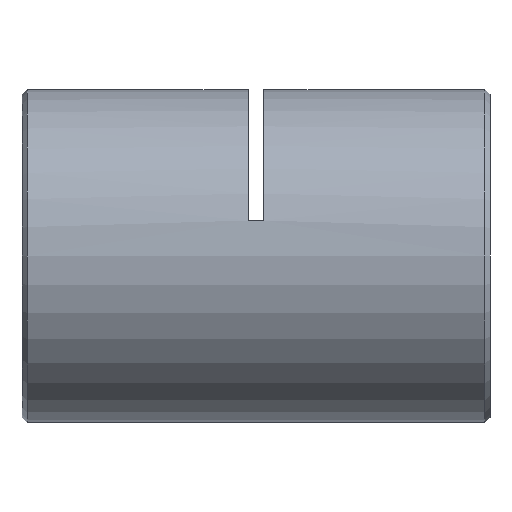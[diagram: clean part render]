
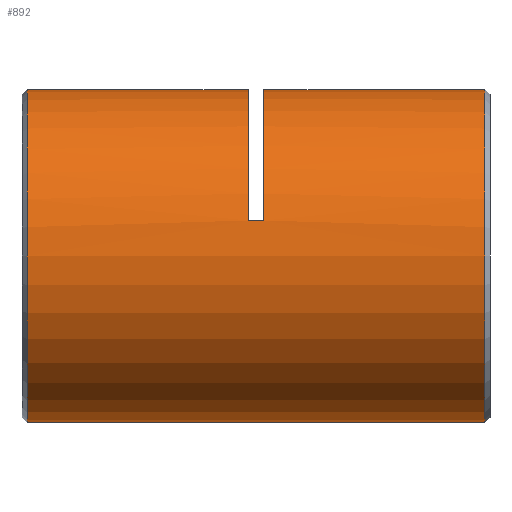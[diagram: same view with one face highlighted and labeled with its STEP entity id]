
A CAD part, left-side view. The second image highlights one B-rep face of the part: STEP entity #892.
In plain terms, the highlighted cylindrical face has radius 16 mm (diameter 32 mm), a partial arc.
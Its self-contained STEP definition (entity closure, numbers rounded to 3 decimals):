
#160 = CARTESIAN_POINT ( 'NONE',  ( 0., 22., 16. ) ) ;
#348 = VECTOR ( 'NONE', #2920, 1000. ) ;
#354 = DIRECTION ( 'NONE',  ( 0., -1., 0. ) ) ;
#525 = EDGE_LOOP ( 'NONE', ( #5694, #2028, #5382, #2296, #5724, #5818, #6005, #725 ) ) ;
#701 = VERTEX_POINT ( 'NONE', #4126 ) ;
#725 = ORIENTED_EDGE ( 'NONE', *, *, #1716, .T. ) ;
#745 = VERTEX_POINT ( 'NONE', #2873 ) ;
#892 = ADVANCED_FACE ( 'NONE', ( #3310 ), #2402, .T. ) ;
#942 = EDGE_CURVE ( 'NONE', #4550, #701, #1273, .T. ) ;
#981 = DIRECTION ( 'NONE',  ( 0., 1., 0. ) ) ;
#996 = DIRECTION ( 'NONE',  ( 0., 1., 0. ) ) ;
#1104 = EDGE_CURVE ( 'NONE', #4978, #4550, #5760, .T. ) ;
#1134 = LINE ( 'NONE', #4989, #2525 ) ;
#1273 = CIRCLE ( 'NONE', #2792, 16. ) ;
#1403 = DIRECTION ( 'NONE',  ( 0., 0., -1. ) ) ;
#1416 = DIRECTION ( 'NONE',  ( 0., 1., 0. ) ) ;
#1464 = CARTESIAN_POINT ( 'NONE',  ( -15.632, 22.75, 3.413 ) ) ;
#1620 = DIRECTION ( 'NONE',  ( 0., 1., 0. ) ) ;
#1672 = EDGE_CURVE ( 'NONE', #4978, #3221, #3805, .T. ) ;
#1716 = EDGE_CURVE ( 'NONE', #5119, #5505, #3419, .T. ) ;
#1922 = CARTESIAN_POINT ( 'NONE',  ( 0., 0., -16. ) ) ;
#1952 = LINE ( 'NONE', #1922, #2494 ) ;
#2028 = ORIENTED_EDGE ( 'NONE', *, *, #5304, .T. ) ;
#2065 = CARTESIAN_POINT ( 'NONE',  ( 0., 0., 16. ) ) ;
#2122 = CARTESIAN_POINT ( 'NONE',  ( 0., 0.75, 0. ) ) ;
#2137 = CARTESIAN_POINT ( 'NONE',  ( 0., 23.5, 0. ) ) ;
#2155 = DIRECTION ( 'NONE',  ( 0., 1., 0. ) ) ;
#2296 = ORIENTED_EDGE ( 'NONE', *, *, #1672, .F. ) ;
#2326 = DIRECTION ( 'NONE',  ( 0., 0., 1. ) ) ;
#2402 = CYLINDRICAL_SURFACE ( 'NONE', #5301, 16. ) ;
#2446 = CARTESIAN_POINT ( 'NONE',  ( -15.632, 22., 3.413 ) ) ;
#2494 = VECTOR ( 'NONE', #996, 1000. ) ;
#2519 = LINE ( 'NONE', #2065, #348 ) ;
#2525 = VECTOR ( 'NONE', #2155, 1000. ) ;
#2623 = EDGE_CURVE ( 'NONE', #3049, #3221, #1134, .T. ) ;
#2702 = AXIS2_PLACEMENT_3D ( 'NONE', #4740, #354, #1403 ) ;
#2792 = AXIS2_PLACEMENT_3D ( 'NONE', #2137, #4054, #5954 ) ;
#2873 = CARTESIAN_POINT ( 'NONE',  ( 0., 0.75, -16. ) ) ;
#2920 = DIRECTION ( 'NONE',  ( 0., 1., 0. ) ) ;
#2947 = CARTESIAN_POINT ( 'NONE',  ( -15.632, 23.5, 3.413 ) ) ;
#3049 = VERTEX_POINT ( 'NONE', #3303 ) ;
#3221 = VERTEX_POINT ( 'NONE', #160 ) ;
#3297 = DIRECTION ( 'NONE',  ( 0., 1., 0. ) ) ;
#3303 = CARTESIAN_POINT ( 'NONE',  ( 0., 0.75, 16. ) ) ;
#3310 = FACE_OUTER_BOUND ( 'NONE', #525, .T. ) ;
#3419 = CIRCLE ( 'NONE', #2702, 16. ) ;
#3545 = DIRECTION ( 'NONE',  ( 0., 0., 1. ) ) ;
#3805 = CIRCLE ( 'NONE', #4914, 16. ) ;
#3820 = CARTESIAN_POINT ( 'NONE',  ( 0., 0., 0. ) ) ;
#3996 = AXIS2_PLACEMENT_3D ( 'NONE', #2122, #1620, #3545 ) ;
#4001 = CARTESIAN_POINT ( 'NONE',  ( 0., 44.75, -16. ) ) ;
#4054 = DIRECTION ( 'NONE',  ( 0., 1., 0. ) ) ;
#4126 = CARTESIAN_POINT ( 'NONE',  ( 0., 23.5, 16. ) ) ;
#4371 = DIRECTION ( 'NONE',  ( 0., 0., 1. ) ) ;
#4550 = VERTEX_POINT ( 'NONE', #2947 ) ;
#4567 = EDGE_CURVE ( 'NONE', #701, #5119, #2519, .T. ) ;
#4612 = CARTESIAN_POINT ( 'NONE',  ( 0., 22., 0. ) ) ;
#4740 = CARTESIAN_POINT ( 'NONE',  ( 0., 44.75, 0. ) ) ;
#4749 = CARTESIAN_POINT ( 'NONE',  ( 0., 44.75, 16. ) ) ;
#4914 = AXIS2_PLACEMENT_3D ( 'NONE', #4612, #3297, #2326 ) ;
#4978 = VERTEX_POINT ( 'NONE', #2446 ) ;
#4989 = CARTESIAN_POINT ( 'NONE',  ( 0., 0., 16. ) ) ;
#5119 = VERTEX_POINT ( 'NONE', #4749 ) ;
#5301 = AXIS2_PLACEMENT_3D ( 'NONE', #3820, #1416, #4371 ) ;
#5304 = EDGE_CURVE ( 'NONE', #745, #3049, #5685, .T. ) ;
#5342 = EDGE_CURVE ( 'NONE', #745, #5505, #1952, .T. ) ;
#5382 = ORIENTED_EDGE ( 'NONE', *, *, #2623, .T. ) ;
#5505 = VERTEX_POINT ( 'NONE', #4001 ) ;
#5685 = CIRCLE ( 'NONE', #3996, 16. ) ;
#5694 = ORIENTED_EDGE ( 'NONE', *, *, #5342, .F. ) ;
#5724 = ORIENTED_EDGE ( 'NONE', *, *, #1104, .T. ) ;
#5760 = LINE ( 'NONE', #1464, #5798 ) ;
#5798 = VECTOR ( 'NONE', #981, 1000. ) ;
#5818 = ORIENTED_EDGE ( 'NONE', *, *, #942, .T. ) ;
#5954 = DIRECTION ( 'NONE',  ( 0., 0., 1. ) ) ;
#6005 = ORIENTED_EDGE ( 'NONE', *, *, #4567, .T. ) ;
